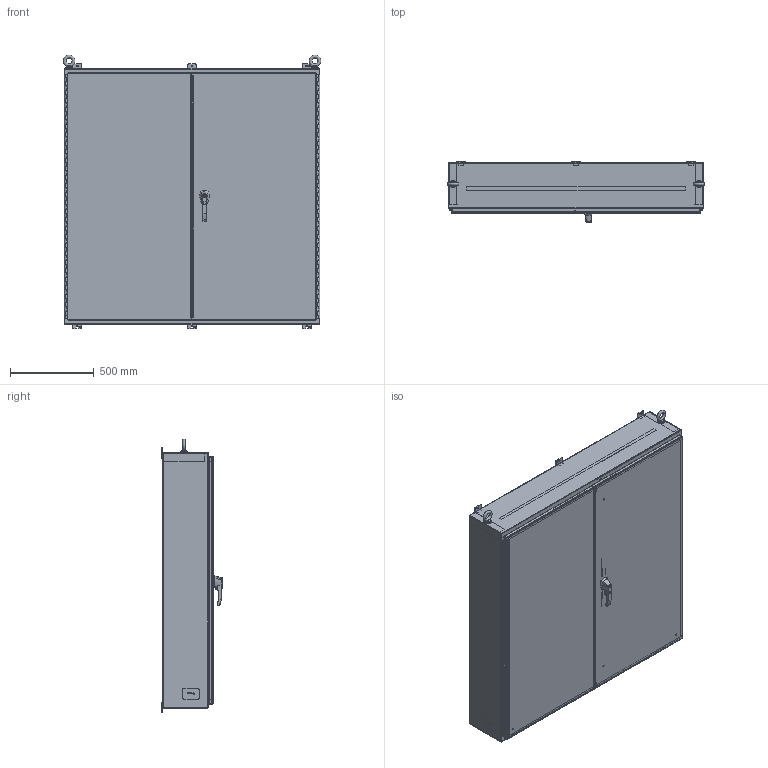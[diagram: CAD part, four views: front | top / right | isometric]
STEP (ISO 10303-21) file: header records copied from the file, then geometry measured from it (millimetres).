
FILE_DESCRIPTION(/* description */ ('Unknown'),/* implementation_level */ '2;1');
FILE_NAME(/* name */ '1422D10',/* time_stamp */ '2018-10-16T08:15:29-04:00',/* author */ ('Unknown'),/* organization */ ('Unknown'),/* preprocessor_version */ 'ST-DEVELOPER v16.7',/* originating_system */ 'DEX',/* authorisation */ $);
FILE_SCHEMA (('AUTOMOTIVE_DESIGN {1 0 10303 214 3 1 1}'));
Length unit declared in the file: millimetre
Products named in the file (57): 1422D10; COM55702-58; NTS166905; scs00680; WAF25362; WAM254785; COM40564; COM56740-3; STD26265; STD21878; COM56694-3; COM54578-56; COM52260-3; COM52267-3; COM52271-3; KIT90256; LAB30005; NTS165305; NTS16535; COM50521; BUL10020; PKT1212; std26094; COM43133; AKT95002; WAF25059; NTS166105; COM50798-3; COM50799-3; NTS16640; FET07710; HAN13066; HAN13066_SCREW; HAN13066_NUT; HAN_NUT; SPC87323; COM54837; COM70840-2_oa_0; COM70838; COM70839-2_oa_1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
Assembly tree (97 placements, depth 4):
  1422D10
    COM55702-58  x3
    NTS166905  x2
    scs00680  x2
    WAF25362  x2
    WAM254785  x2
    COM40564  x2
    COM56740-3
      STD26265  x2
      STD21878
      COM56694-3
      COM54578-56
    COM52260-3
    COM52267-3
    COM52271-3
    KIT90256
      LAB30005
      NTS165305
      NTS16535
    COM50521  x2
    BUL10020
    PKT1212
    std26094  x8
    STD21878  x2
    COM43133
    AKT95002  x8
      WAF25059
      NTS166105
    COM50798-3
      COM50799-3
      COM54578-56
      STD21878
    NTS16640
    FET07710  x6
    HAN13066
      HAN13066
      HAN13066_SCREW
      HAN13066_NUT
      HAN_NUT
    SPC87323
    COM54837
    COM70840-2_oa_0
      COM70838
      COM70839-2_oa_1
        COM70839-2
      RVT19000  x2
      RVT17786  x2
      NTS18147  x2
      WAM30038  x2
      COM70839-2_oa_2
        COM70839-2
      WAF25376  x4
      ROL87452  x2
    GSK11033_oa_3
    GSK11033_oa_4
    GSK11033_oa_5
    QLB20205
    GSK11033_oa_6
    GSK11033_oa_7
    GSK11033_oa_8
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Bounding box: 1539.33 x 359.41 x 1636.66 mm (x, y, z)
Volume: 25935259.5 mm3; surface area: 20091567.1 mm2
Topology: 98 solids, 98 shells, 2714 faces, 7066 edges, 4611 vertices
Faces by surface type: plane 1630, cylinder 791, bspline 174, cone 77, torus 36, sphere 6
Full cylindrical faces by diameter (mm): 2.54 x2, 4.394 x1, 4.976 x1, 5.893 x1, 5.918 x1, 6.35 x9, 6.528 x4, 7.112 x4, 7.137 x8, 7.722 x20, 7.805 x9, 7.938 x6, 7.95 x2, 8.128 x1, 8.255 x1, 8.382 x8, 8.484 x1, 8.89 x1, 9.398 x2, 9.525 x9, 9.906 x4, 10.49 x2, 11.113 x6, 11.125 x1, 11.176 x2, 11.303 x8, 13.335 x1, 13.376 x2, 14.287 x8, 15.24 x1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
Entity records: 54645 total; most frequent: CARTESIAN_POINT 13369, ORIENTED_EDGE 8412, DIRECTION 7878, EDGE_CURVE 4206, VERTEX_POINT 2781, LINE 2696, VECTOR 2696, AXIS2_PLACEMENT_3D 2591
